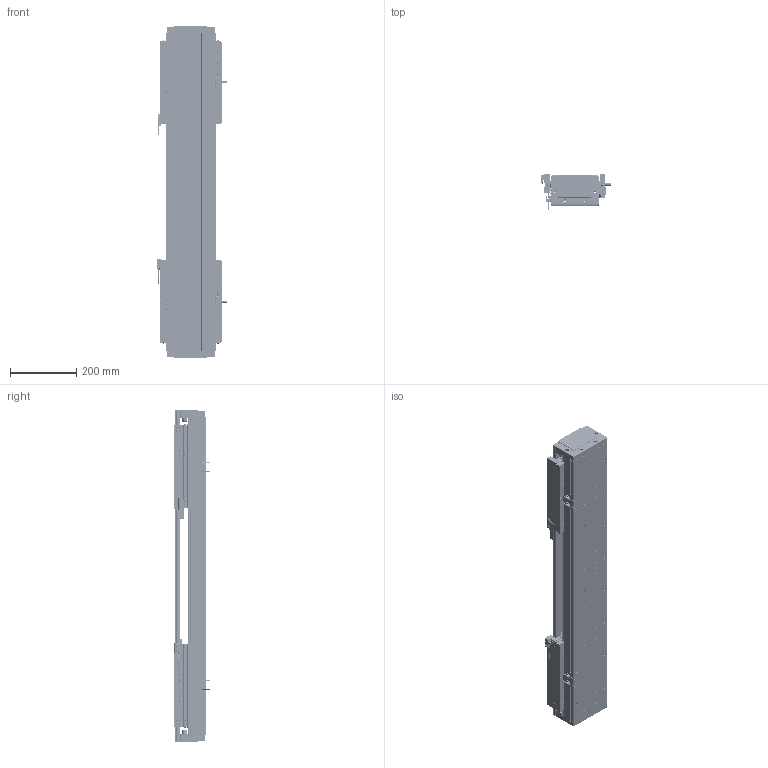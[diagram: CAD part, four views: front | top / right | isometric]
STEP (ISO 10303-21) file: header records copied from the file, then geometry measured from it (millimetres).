
FILE_DESCRIPTION (( 'STEP AP203' ), '1' );
FILE_NAME ('DA-C145-2-C3-T380-C010-0.2 眻盄萇儂.STEP', '2025-08-13T10:15:23', ( '' ), ( '' ), 'SwSTEP 2.0', 'SolidWorks 2019', '' );
FILE_SCHEMA (( 'CONFIG_CONTROL_DESIGN' ));
Length unit declared in the file: millimetre
Products named in the file (35): 葩璃 DA95-HXJ-00 遣喳砎蝶^DA-C145-2-C3-T-C010-0.2; DKW168-HXJ-ZJ-00 笢潔滅袉砎蝶; 葩璃 DA145-T-003-00 裔啣^DA-C145-2-C3-T-C010-0.2; 葩璃 DA145-C3-DP-B-00 菜えB^CU145-W 幗紩賑怢; CU145-W-00 珨极趙賑雄怢啣-1; 葩璃 PM-Y65^DA-C145-2-C3-T-C010-0.2; 葩璃 XD-U-02L 棠掑喜^DA-C145-2-C3-T-C010-0.2; 复件 DA145-C3-DK-00 挡块^CU145-W 滚珠滑台; CU145-W-00 珨极趙賑雄怢啣; 葩璃 DA95-GT-T-00^IU-CU145-L 菁釱絳寢; 复件 DA95-HK-GT-00 滑块钢轨^CU145-W-00 一体化滑动台板; 复件 内六角平端紧定螺钉 GB.T77-2000 M5×10^CU145-W 滚珠滑台; DKW-KGZ-ZJ-00 中间光电开关支架; IU-CU145-L 菁釱絳寢; 复件 DA145-C3-YB-B-00 压板B^CU145-W 滚珠滑台; 葩璃 PM-T45^DA-C145-2-C3-T-C010-0.2; 复件 半圆头内六角螺钉 M3×6^CU145-W 滚珠滑台; 复件 DA145-C3-YB-A-00 压板A^CU145-W 滚珠滑台; 复件 DA95-MFP-01 密封片^CU145-W 滚珠滑台; 葩璃 DMA-010-0.2 黍杅芛^DA-C145-2-C3-T-C010-0.2; 葩璃 CKMA01-W060-TRL^DA-C145-2-C3-T-C010-0.2; IU-CU145-L-00 菁釱(L960); 复件 DA145-GYP-00 光电感应片^DA-C145-2-C3-T-C010-0.2; CU145-W 幗紩賑怢; DKW-GYP-ZJ-00 笢潔嫖萇覜茼え; 葩璃 CKM03-W060-C1C2-TP-0.2^DA-C145-2-C3-T-C010-0.2; 复件 DA95-DB-00  挡板^CU145-W 滚珠滑台; TAY01-M8; 葩璃 鞠褒情蹟譫 M3^DA-C145-2-C3-T-C010-0.2; 葩璃 DA145-C3-DP-A-00 菜えA^CU145-W 幗紩賑怢; 66245-CU145-HT-W-00 賑雄怢啣(3D芞祧)(00); DA-C145-2-C3-T380-C010-0.2 眻盄萇儂; CU145-W 幗紩賑怢-1; 复件 纯铜油杯 6x6mm^CU145-W 滚珠滑台; 葩璃 DA145-DG-H-N-00 傷裔^DA-C145-2-C3-T-C010-0.2
Assembly tree (175 placements, depth 4):
  DA-C145-2-C3-T380-C010-0.2 眻盄萇儂
    IU-CU145-L 菁釱絳寢
      IU-CU145-L-00 菁釱(L960)
      葩璃 DA95-GT-T-00^IU-CU145-L 菁釱絳寢  x4
    CU145-W 幗紩賑怢
      CU145-W-00 珨极趙賑雄怢啣
        66245-CU145-HT-W-00 賑雄怢啣(3D芞祧)(00)
        复件 DA95-HK-GT-00 滑块钢轨^CU145-W-00 一体化滑动台板  x8
      复件 DA95-MFP-01 密封片^CU145-W 滚珠滑台  x8
      复件 DA95-DB-00  挡板^CU145-W 滚珠滑台  x8
      复件 内六角平端紧定螺钉 GB.T77-2000 M5×10^CU145-W 滚珠滑台  x4
      复件 纯铜油杯 6x6mm^CU145-W 滚珠滑台  x4
      复件 半圆头内六角螺钉 M3×6^CU145-W 滚珠滑台  x16
      复件 DA145-C3-DK-00 挡块^CU145-W 滚珠滑台  x4
      葩璃 DA145-C3-DP-B-00 菜えB^CU145-W 幗紩賑怢  x2
      复件 DA145-C3-YB-B-00 压板B^CU145-W 滚珠滑台  x2
      葩璃 DA145-C3-DP-A-00 菜えA^CU145-W 幗紩賑怢  x3
      复件 DA145-C3-YB-A-00 压板A^CU145-W 滚珠滑台  x3
      TAY01-M8  x4
    CU145-W 幗紩賑怢-1
      CU145-W-00 珨极趙賑雄怢啣-1
        66245-CU145-HT-W-00 賑雄怢啣(3D芞祧)(00)
        复件 DA95-HK-GT-00 滑块钢轨^CU145-W-00 一体化滑动台板  x8
      复件 DA95-MFP-01 密封片^CU145-W 滚珠滑台  x8
      复件 DA95-DB-00  挡板^CU145-W 滚珠滑台  x8
      复件 内六角平端紧定螺钉 GB.T77-2000 M5×10^CU145-W 滚珠滑台  x4
      复件 纯铜油杯 6x6mm^CU145-W 滚珠滑台  x4
      复件 半圆头内六角螺钉 M3×6^CU145-W 滚珠滑台  x16
      复件 DA145-C3-DK-00 挡块^CU145-W 滚珠滑台  x4
      葩璃 DA145-C3-DP-B-00 菜えB^CU145-W 幗紩賑怢  x2
      复件 DA145-C3-YB-B-00 压板B^CU145-W 滚珠滑台  x2
      葩璃 DA145-C3-DP-A-00 菜えA^CU145-W 幗紩賑怢  x3
      复件 DA145-C3-YB-A-00 压板A^CU145-W 滚珠滑台  x3
      TAY01-M8  x4
    葩璃 CKMA01-W060-TRL^DA-C145-2-C3-T-C010-0.2
    葩璃 PM-T45^DA-C145-2-C3-T-C010-0.2  x4
    葩璃 XD-U-02L 棠掑喜^DA-C145-2-C3-T-C010-0.2
    葩璃 DA145-DG-H-N-00 傷裔^DA-C145-2-C3-T-C010-0.2  x2
    葩璃 DA145-T-003-00 裔啣^DA-C145-2-C3-T-C010-0.2
    葩璃 DA95-HXJ-00 遣喳砎蝶^DA-C145-2-C3-T-C010-0.2  x4
    葩璃 CKM03-W060-C1C2-TP-0.2^DA-C145-2-C3-T-C010-0.2  x2
    葩璃 DMA-010-0.2 黍杅芛^DA-C145-2-C3-T-C010-0.2  x2
    复件 DA145-GYP-00 光电感应片^DA-C145-2-C3-T-C010-0.2  x2
    DKW-GYP-ZJ-00 笢潔嫖萇覜茼え
    DKW-KGZ-ZJ-00 中间光电开关支架
    葩璃 PM-Y65^DA-C145-2-C3-T-C010-0.2
    葩璃 鞠褒情蹟譫 M3^DA-C145-2-C3-T-C010-0.2  x8
    DKW168-HXJ-ZJ-00 笢潔滅袉砎蝶
Bounding box: 213.7 x 108.45 x 1000 mm (x, y, z)
Volume: 8637453 mm3; surface area: 2339845.9 mm2
Topology: 171 solids, 235 shells, 6846 faces, 17632 edges, 10787 vertices
Faces by surface type: plane 2928, cylinder 2630, cone 1120, torus 152, sphere 8, bspline 8
Entity records: 102039 total; most frequent: CARTESIAN_POINT 24452, DIRECTION 14735, ORIENTED_EDGE 14428, EDGE_CURVE 7214, AXIS2_PLACEMENT_3D 5339, VERTEX_POINT 4636, LINE 4057, VECTOR 4057
